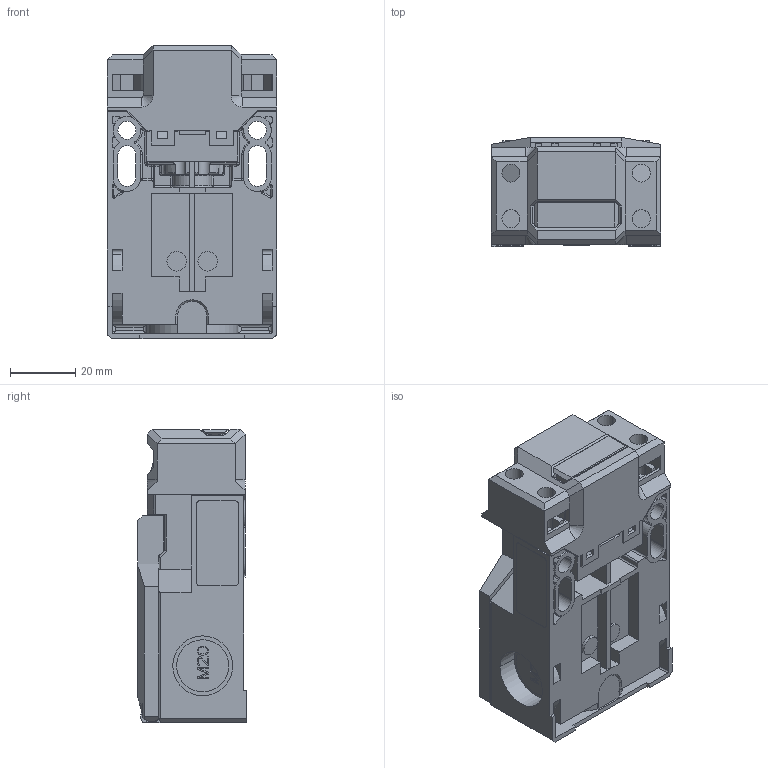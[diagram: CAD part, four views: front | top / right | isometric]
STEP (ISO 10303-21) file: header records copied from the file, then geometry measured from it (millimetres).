
FILE_DESCRIPTION((''),'2;1');
FILE_NAME('6016169182_01','2026-10-14T13:12:20',('Michael.Schnitker'),(''),'CREO PARAMETRIC BY PTC INC, 2022124','CREO PARAMETRIC BY PTC INC, 2022124','');
FILE_SCHEMA(('AUTOMOTIVE_DESIGN { 1 0 10303 214 1 1 1 1 }'));
Length unit declared in the file: millimetre
Products named in the file (1): 6016169182_01
Bounding box: 52.1 x 33.6 x 90.1 mm (x, y, z)
Volume: 96779.1 mm3; surface area: 40088.8 mm2
Topology: 1 solids, 1 shells, 1536 faces, 4312 edges, 2741 vertices
Faces by surface type: plane 1043, cylinder 342, torus 74, sphere 42, cone 19, bspline 16
Entity records: 50930 total; most frequent: CARTESIAN_POINT 10470, ORIENTED_EDGE 8612, DIRECTION 8018, EDGE_CURVE 4306, VECTOR 3319, LINE 3319, VERTEX_POINT 2741, AXIS2_PLACEMENT_3D 2348
